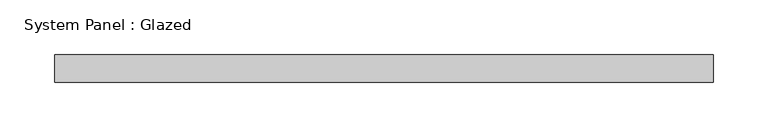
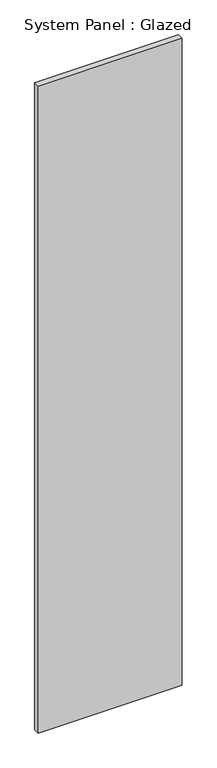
"""IFC4 building model written with IfcOpenShell, lengths in millimetres: plate geometry, System Panel : Glazed."""

from ifc_helpers import new_model, si_unit, origin, origin_with_axes, place, context, project, spatial, polyline, outline, extrude, source, transform, mapped, element, save


def system_panel_glazed_53b3c72d(model_context):
    return source(origin(), model_context, "Body", "SweptSolid", [
        extrude(outline(polyline([(300.0, -49.5), (-300.0, -49.5), (-300.0, -24.5), (300.0, -24.5), (300.0, -49.5)])), origin_with_axes(), (0.0, 0.0, 1.0), 2850.0),
    ])


if __name__ == "__main__":
    model = new_model("IFC4")
    model_context = context("Model", 3, world=origin())
    ifc_project = project(units=[si_unit("LENGTHUNIT", "METRE", prefix="MILLI")], contexts=[model_context])
    site = spatial("IfcSite", under=ifc_project)
    building = spatial("IfcBuilding", under=site)
    placement = place(None, origin())
    system_panel_glazed_shape = system_panel_glazed_53b3c72d(model_context)
    element("IfcPlate", 1, ObjectType="System Panel : Glazed", at=placement, inside=building, context=model_context, shape_type="MappedRepresentation", body=[
        mapped(system_panel_glazed_shape, transform((0.0, 0.0, 0.0), x_axis=(1.0, 0.0, 0.0), y_axis=(0.0, 1.0, 0.0), z_axis=(0.0, 0.0, 1.0))),
    ])
    save(model, "model.ifc")
